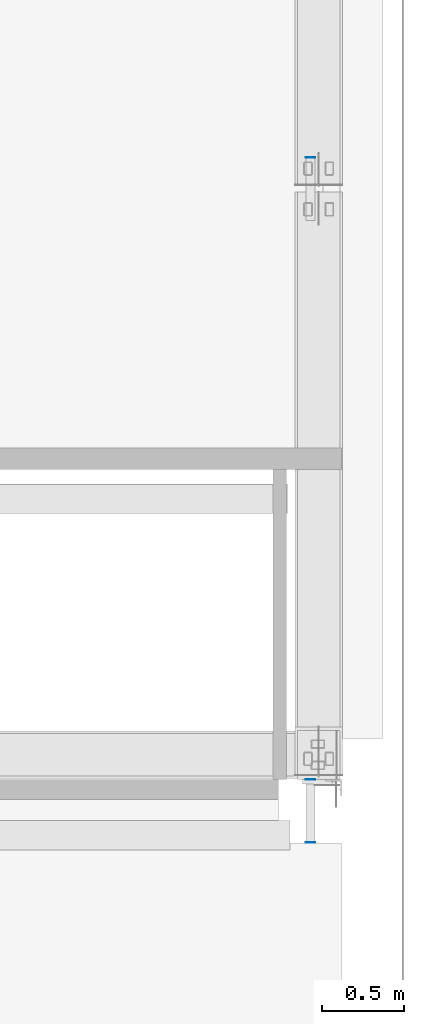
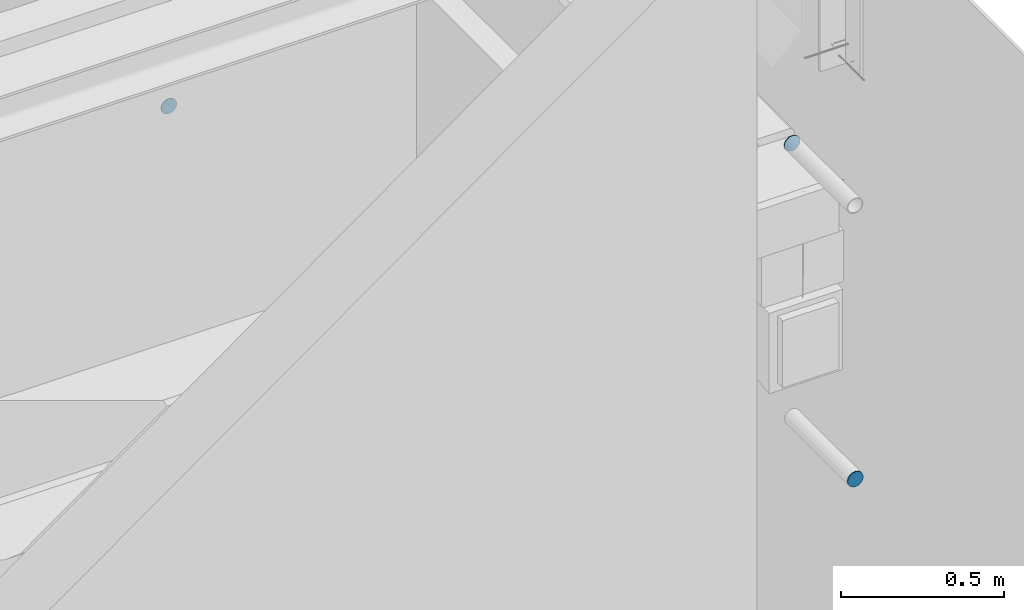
# One storey, part 111 of 186: 3 beams.
"""IFC4X3_ADD2 building model written with IfcOpenShell, lengths in millimetres."""

from ifc_helpers import new_model, si_unit, direction, frame, origin_with_axes, place, context, subcontext, project, spatial, indexed_curve, outline, extrude, material, element, save


model = new_model("IFC4X3_ADD2")

# Units and contexts
model_context = context("Model", 3, precision=1e-05, world=origin_with_axes(), true_north=direction((0.0, 1.0)))
body_context = subcontext(model_context, "Body", "Model", "MODEL_VIEW")
ifc_project = project(units=[si_unit("LENGTHUNIT", "METRE", prefix="MILLI"), si_unit("AREAUNIT", "SQUARE_METRE"), si_unit("VOLUMEUNIT", "CUBIC_METRE"), si_unit("PLANEANGLEUNIT", "RADIAN"), si_unit("TIMEUNIT", "SECOND"), si_unit("MASSUNIT", "GRAM")], contexts=[model_context])

# Site, building, storey
site_placement = place(None, origin_with_axes())
site = spatial("IfcSite", under=ifc_project, at=site_placement, Name="Site", CompositionType="ELEMENT")
building_placement = place(site_placement, origin_with_axes())
building = spatial("IfcBuilding", under=site, at=building_placement, Name="IFC Building Story")
storey_placement = place(building_placement, frame((0.0, 0.0, 4370.0), z_axis=(0.0, 0.0, 1.0), x_axis=(1.0, 0.0, 0.0)))
storey = spatial("IfcBuildingStorey", under=building, at=storey_placement, Name="ETAGE 10 (1)", Elevation=4370.0)

# Beams
ifc_material = material(Name="STEEL/Accessory 22919")
beam_1_placement = place(storey_placement, frame((48311.18863623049, 21814.9996109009, 1255.000000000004), z_axis=(0.0, -1.0, 0.0), x_axis=(-0.5555702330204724, 0.0, 0.8314696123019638)))
element("IfcBeam", 1, at=beam_1_placement, inside=storey, material=ifc_material, Name="TA4", ObjectType="D56", context=body_context, shape_type="SweptSolid", body=[
    extrude(outline(indexed_curve([(23.28114914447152, 15.55596652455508), (27.46198785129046, 5.462529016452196), (27.46198785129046, -5.462529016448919), (23.28114914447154, -15.55596652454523), (15.55596652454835, -23.28114914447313), (5.462529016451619, -27.46198785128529), (-5.462529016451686, -27.46198785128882), (-15.55596652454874, -23.28114914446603), (-23.2811491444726, -15.55596652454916), (-27.46198785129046, -5.462529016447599), (-27.46198785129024, 5.462529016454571), (-23.28114914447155, 15.55596652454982), (-15.55596652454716, 23.28114914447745), (-5.462529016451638, 27.46198785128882), (5.462529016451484, 27.46198785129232), (15.55596652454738, 23.28114914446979), (23.28114914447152, 15.55596652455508)])), origin_with_axes(), (0.0, 0.0, 1.0), 3.000000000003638),
])
beam_2_placement = place(storey_placement, frame((48311.18863623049, 17612.99961090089, 2409.673999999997), z_axis=(0.0, -1.0, 0.0), x_axis=(-0.1950903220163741, 0.0, 0.9807852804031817)))
element("IfcBeam", 2, at=beam_2_placement, inside=storey, material=ifc_material, Name="TA4", ObjectType="D56", context=body_context, shape_type="SweptSolid", body=[
    extrude(outline(indexed_curve([(23.28114914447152, 15.55596652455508), (27.46198785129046, 5.462529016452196), (27.46198785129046, -5.462529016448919), (23.28114914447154, -15.55596652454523), (15.55596652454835, -23.28114914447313), (5.462529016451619, -27.46198785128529), (-5.462529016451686, -27.46198785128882), (-15.55596652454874, -23.28114914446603), (-23.2811491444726, -15.55596652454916), (-27.46198785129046, -5.462529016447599), (-27.46198785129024, 5.462529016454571), (-23.28114914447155, 15.55596652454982), (-15.55596652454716, 23.28114914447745), (-5.462529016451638, 27.46198785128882), (5.462529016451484, 27.46198785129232), (15.55596652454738, 23.28114914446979), (23.28114914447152, 15.55596652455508)])), origin_with_axes(), (0.0, 0.0, 1.0), 2.999999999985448),
])
beam_3_placement = place(storey_placement, frame((48311.1886362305, 17999.99961090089, 3430.000000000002), z_axis=(0.0, -1.0, 0.0), x_axis=(-0.5555702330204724, 0.0, 0.8314696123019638)))
element("IfcBeam", 3, at=beam_3_placement, inside=storey, material=ifc_material, Name="TA4", ObjectType="D56", context=body_context, shape_type="SweptSolid", body=[
    extrude(outline(indexed_curve([(23.28114914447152, 15.55596652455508), (27.46198785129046, 5.462529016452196), (27.46198785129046, -5.462529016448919), (23.28114914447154, -15.55596652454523), (15.55596652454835, -23.28114914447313), (5.462529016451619, -27.46198785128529), (-5.462529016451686, -27.46198785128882), (-15.55596652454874, -23.28114914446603), (-23.2811491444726, -15.55596652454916), (-27.46198785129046, -5.462529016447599), (-27.46198785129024, 5.462529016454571), (-23.28114914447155, 15.55596652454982), (-15.55596652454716, 23.28114914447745), (-5.462529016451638, 27.46198785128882), (5.462529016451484, 27.46198785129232), (15.55596652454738, 23.28114914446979), (23.28114914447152, 15.55596652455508)])), origin_with_axes(), (0.0, 0.0, 1.0), 2.999999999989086),
])

save(model, "model.ifc")
